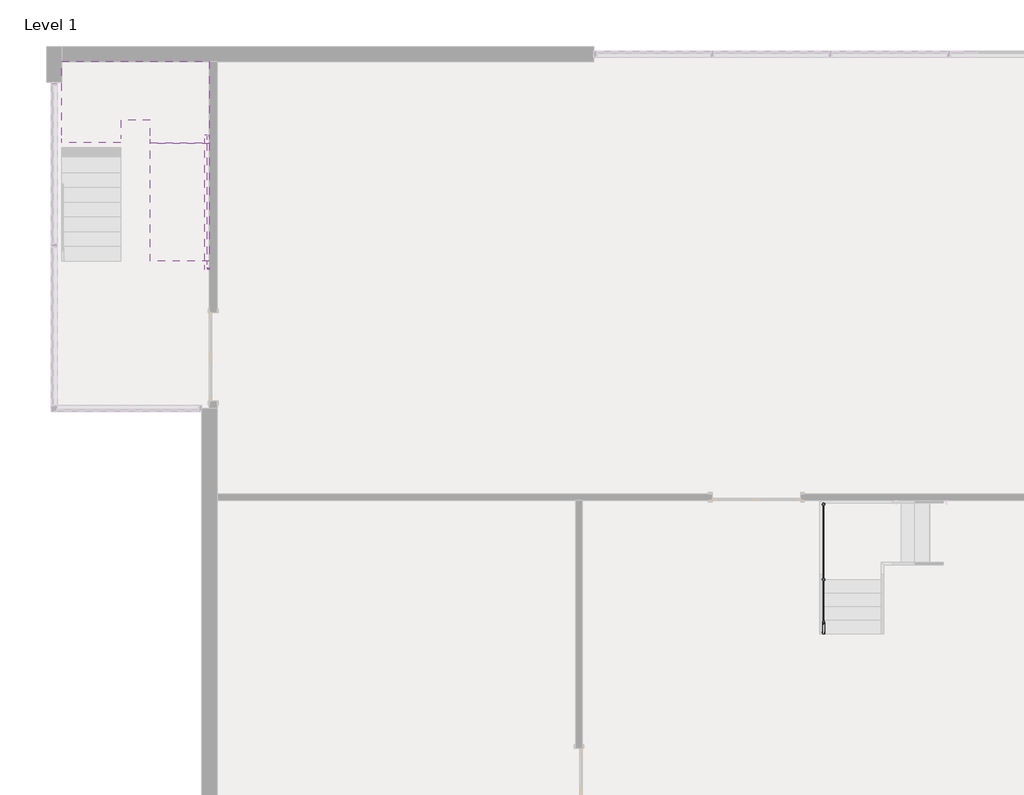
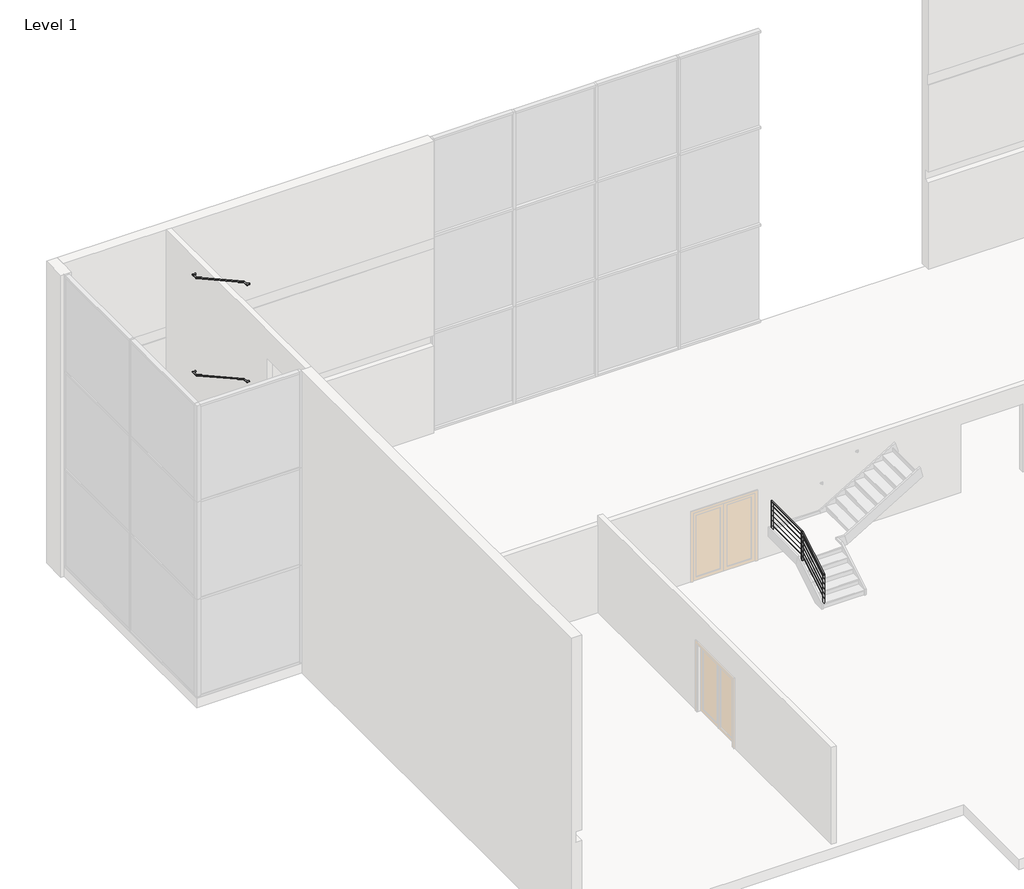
# One storey, part 5 of 7: 3 railings, 1 slab, 1 stair flight.
"""IFC4 building model written with IfcOpenShell, lengths in millimetres."""

from ifc_helpers import new_model, si_unit, point, frame, frame_2d, origin, place, context, project, spatial, circle_curve, ellipse_curve, trimmed, segment, composite_curve, outline, extrude, faceted_brep, element, save
from ifc_brep_helpers import plane_surface, cylinder_surface, advanced_brep

model = new_model("IFC4")

# Units and contexts
model_context = context("Model", 3, world=origin())
ifc_project = project(units=[si_unit("LENGTHUNIT", "METRE", prefix="MILLI")], contexts=[model_context])

# Site, building, storey
site = spatial("IfcSite", under=ifc_project)
building = spatial("IfcBuilding", under=site)
storey = spatial("IfcBuildingStorey", under=building, Name="Level 1", Elevation=0.0)

# Railings
placement = place(None, origin())
element("IfcRailing", 1, ObjectType="Handrail -Wire", at=placement, inside=storey, context=model_context, shape_type="SolidModel", body=[
    advanced_brep(
    [(-5647.967382, 3796.5483604, 1061.4577857), (-5686.067382, 3796.5483604, 1061.4577857), (-5647.967382, 4919.470514, 1742.0166667), (-5686.067382, 4919.470514, 1742.0166667), (-5647.967382, 6488.9483604, 1742.0166667), (-5686.067382, 6488.9483604, 1742.0166667)],
    [
        (0, 1, ellipse_curve(frame((-5667.017382, 3796.5483604, 1061.4577857), z_axis=(0.0, -1.0, 0.0), x_axis=(0.0, 0.0, -1.0)), 22.2755476, 19.05)),
        (1, 0, ellipse_curve(frame((-5667.017382, 3796.5483604, 1061.4577857), z_axis=(0.0, -1.0, 0.0), x_axis=(0.0, 0.0, -1.0)), 22.2755476, 19.05)),
        (0, 2),
        (2, 3, ellipse_curve(frame((-5667.017382, 4919.470514, 1742.0166667), z_axis=(0.0, -0.9631193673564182, -0.2690744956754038), x_axis=(0.0, 0.26907449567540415, -0.9631193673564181)), 19.7794797, 19.05)),
        (3, 1),
        (3, 2, ellipse_curve(frame((-5667.017382, 4919.470514, 1742.0166667), z_axis=(0.0, -0.9631193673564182, -0.2690744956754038), x_axis=(0.0, 0.26907449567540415, -0.9631193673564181)), 19.7794797, 19.05)),
        (4, 5, circle_curve(frame((-5667.017382, 6488.9483604, 1742.0166667), z_axis=(0.0, 1.0, 0.0), x_axis=(-1.0, 0.0, 0.0)), 19.05)),
        (5, 4, circle_curve(frame((-5667.017382, 6488.9483604, 1742.0166667), z_axis=(0.0, 1.0, 0.0), x_axis=(-1.0, 0.0, 0.0)), 19.05)),
        (2, 4),
        (5, 3),
    ],
    [
        plane_surface(frame((-5667.017382, 3796.5483604, 1083.7333333), z_axis=(0.0, -1.0, 0.0), x_axis=(0.0, 0.0, 1.0))),
        cylinder_surface(frame((-5667.017382, 3806.4220081, 1067.4418146), z_axis=(0.0, -0.8551978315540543, -0.5183017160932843), x_axis=(-1.0, 0.0, 0.0)), 19.05),
        plane_surface(frame((-5667.017382, 6488.9483604, 1761.0666667), z_axis=(0.0, 1.0, 0.0), x_axis=(0.0, 0.0, 1.0))),
        cylinder_surface(frame((-5667.017382, 4914.1483604, 1742.0166667), z_axis=(0.0, -1.0, 0.0), x_axis=(-1.0, 0.0, 0.0)), 19.05),
    ],
    [
        (0, [[1, 2]]),
        (1, [[-1, 3, 4, 5]]),
        (1, [[-2, -5, 6, -3]]),
        (2, [[7, 8]]),
        (3, [[-4, 9, -8, 10]]),
        (3, [[-6, -10, -7, -9]]),
    ],
),
    advanced_brep(
    [(-5663.842382, 3796.5483604, 927.6207421), (-5670.192382, 3796.5483604, 927.6207421), (-5663.842382, 4914.1483604, 1604.9540754), (-5670.192382, 4914.1483604, 1604.9540754)],
    [
        (0, 1, ellipse_curve(frame((-5667.017382, 3796.5483604, 927.6207421), z_axis=(0.0, -1.0, 0.0), x_axis=(0.0, 0.0, -1.0)), 3.7125913, 3.175)),
        (1, 0, ellipse_curve(frame((-5667.017382, 3796.5483604, 927.6207421), z_axis=(0.0, -1.0, 0.0), x_axis=(0.0, 0.0, -1.0)), 3.7125913, 3.175)),
        (2, 3, ellipse_curve(frame((-5667.017382, 4914.1483604, 1604.9540754), z_axis=(0.0, 1.0, 0.0), x_axis=(0.0, 0.0, -1.0)), 3.7125913, 3.175)),
        (3, 2, ellipse_curve(frame((-5667.017382, 4914.1483604, 1604.9540754), z_axis=(0.0, 1.0, 0.0), x_axis=(0.0, 0.0, -1.0)), 3.7125913, 3.175)),
        (0, 2),
        (3, 1),
    ],
    [
        plane_surface(frame((-5667.017382, 3796.5483604, 931.3333333), z_axis=(0.0, -1.0, 0.0), x_axis=(0.0, 0.0, 1.0))),
        plane_surface(frame((-5667.017382, 4914.1483604, 1608.6666667), z_axis=(0.0, 1.0, 0.0), x_axis=(0.0, 0.0, 1.0))),
        cylinder_surface(frame((-5667.017382, 3798.1939684, 928.6180802), z_axis=(0.0, -0.8551978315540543, -0.5183017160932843), x_axis=(-1.0, 0.0, 0.0)), 3.175),
    ],
    [
        (0, [[1, 2]]),
        (1, [[3, 4]]),
        (2, [[-1, 5, -4, 6]]),
        (2, [[-2, -6, -3, -5]]),
    ],
),
    advanced_brep(
    [(-5663.842382, 4914.1483604, 1605.4916667), (-5670.192382, 4914.1483604, 1605.4916667), (-5663.842382, 6488.9483604, 1605.4916667), (-5670.192382, 6488.9483604, 1605.4916667)],
    [
        (0, 1, circle_curve(frame((-5667.017382, 4914.1483604, 1605.4916667), z_axis=(0.0, -1.0, 0.0), x_axis=(-1.0, 0.0, 0.0)), 3.175)),
        (1, 0, circle_curve(frame((-5667.017382, 4914.1483604, 1605.4916667), z_axis=(0.0, -1.0, 0.0), x_axis=(-1.0, 0.0, 0.0)), 3.175)),
        (2, 3, circle_curve(frame((-5667.017382, 6488.9483604, 1605.4916667), z_axis=(0.0, 1.0, 0.0), x_axis=(-1.0, 0.0, 0.0)), 3.175)),
        (3, 2, circle_curve(frame((-5667.017382, 6488.9483604, 1605.4916667), z_axis=(0.0, 1.0, 0.0), x_axis=(-1.0, 0.0, 0.0)), 3.175)),
        (0, 2),
        (3, 1),
    ],
    [
        plane_surface(frame((-5667.017382, 4914.1483604, 1608.6666667), z_axis=(0.0, -1.0, 0.0), x_axis=(0.0, 0.0, 1.0))),
        plane_surface(frame((-5667.017382, 6488.9483604, 1608.6666667), z_axis=(0.0, 1.0, 0.0), x_axis=(0.0, 0.0, 1.0))),
        cylinder_surface(frame((-5667.017382, 4914.1483604, 1605.4916667), z_axis=(0.0, -1.0, 0.0), x_axis=(-1.0, 0.0, 0.0)), 3.175),
    ],
    [
        (0, [[1, 2]]),
        (1, [[3, 4]]),
        (2, [[-1, 5, -4, 6]]),
        (2, [[-2, -6, -3, -5]]),
    ],
),
    advanced_brep(
    [(-5663.842382, 3796.5483604, 775.2207421), (-5670.192382, 3796.5483604, 775.2207421), (-5663.842382, 4914.1483604, 1452.5540754), (-5670.192382, 4914.1483604, 1452.5540754)],
    [
        (0, 1, ellipse_curve(frame((-5667.017382, 3796.5483604, 775.2207421), z_axis=(0.0, -1.0, 0.0), x_axis=(0.0, 0.0, -1.0)), 3.7125913, 3.175)),
        (1, 0, ellipse_curve(frame((-5667.017382, 3796.5483604, 775.2207421), z_axis=(0.0, -1.0, 0.0), x_axis=(0.0, 0.0, -1.0)), 3.7125913, 3.175)),
        (2, 3, ellipse_curve(frame((-5667.017382, 4914.1483604, 1452.5540754), z_axis=(0.0, 1.0, 0.0), x_axis=(0.0, 0.0, -1.0)), 3.7125913, 3.175)),
        (3, 2, ellipse_curve(frame((-5667.017382, 4914.1483604, 1452.5540754), z_axis=(0.0, 1.0, 0.0), x_axis=(0.0, 0.0, -1.0)), 3.7125913, 3.175)),
        (0, 2),
        (3, 1),
    ],
    [
        plane_surface(frame((-5667.017382, 3796.5483604, 778.9333333), z_axis=(0.0, -1.0, 0.0), x_axis=(0.0, 0.0, 1.0))),
        plane_surface(frame((-5667.017382, 4914.1483604, 1456.2666667), z_axis=(0.0, 1.0, 0.0), x_axis=(0.0, 0.0, 1.0))),
        cylinder_surface(frame((-5667.017382, 3798.1939684, 776.2180802), z_axis=(0.0, -0.8551978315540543, -0.5183017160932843), x_axis=(-1.0, 0.0, 0.0)), 3.175),
    ],
    [
        (0, [[1, 2]]),
        (1, [[3, 4]]),
        (2, [[-1, 5, -4, 6]]),
        (2, [[-2, -6, -3, -5]]),
    ],
),
    advanced_brep(
    [(-5663.842382, 4914.1483604, 1453.0916667), (-5670.192382, 4914.1483604, 1453.0916667), (-5663.842382, 6488.9483604, 1453.0916667), (-5670.192382, 6488.9483604, 1453.0916667)],
    [
        (0, 1, circle_curve(frame((-5667.017382, 4914.1483604, 1453.0916667), z_axis=(0.0, -1.0, 0.0), x_axis=(-1.0, 0.0, 0.0)), 3.175)),
        (1, 0, circle_curve(frame((-5667.017382, 4914.1483604, 1453.0916667), z_axis=(0.0, -1.0, 0.0), x_axis=(-1.0, 0.0, 0.0)), 3.175)),
        (2, 3, circle_curve(frame((-5667.017382, 6488.9483604, 1453.0916667), z_axis=(0.0, 1.0, 0.0), x_axis=(-1.0, 0.0, 0.0)), 3.175)),
        (3, 2, circle_curve(frame((-5667.017382, 6488.9483604, 1453.0916667), z_axis=(0.0, 1.0, 0.0), x_axis=(-1.0, 0.0, 0.0)), 3.175)),
        (0, 2),
        (3, 1),
    ],
    [
        plane_surface(frame((-5667.017382, 4914.1483604, 1456.2666667), z_axis=(0.0, -1.0, 0.0), x_axis=(0.0, 0.0, 1.0))),
        plane_surface(frame((-5667.017382, 6488.9483604, 1456.2666667), z_axis=(0.0, 1.0, 0.0), x_axis=(0.0, 0.0, 1.0))),
        cylinder_surface(frame((-5667.017382, 4914.1483604, 1453.0916667), z_axis=(0.0, -1.0, 0.0), x_axis=(-1.0, 0.0, 0.0)), 3.175),
    ],
    [
        (0, [[1, 2]]),
        (1, [[3, 4]]),
        (2, [[-1, 5, -4, 6]]),
        (2, [[-2, -6, -3, -5]]),
    ],
),
    advanced_brep(
    [(-5663.842382, 3796.5483604, 622.8207421), (-5670.192382, 3796.5483604, 622.8207421), (-5663.842382, 4914.1483604, 1300.1540754), (-5670.192382, 4914.1483604, 1300.1540754)],
    [
        (0, 1, ellipse_curve(frame((-5667.017382, 3796.5483604, 622.8207421), z_axis=(0.0, -1.0, 0.0), x_axis=(0.0, 0.0, -1.0)), 3.7125913, 3.175)),
        (1, 0, ellipse_curve(frame((-5667.017382, 3796.5483604, 622.8207421), z_axis=(0.0, -1.0, 0.0), x_axis=(0.0, 0.0, -1.0)), 3.7125913, 3.175)),
        (2, 3, ellipse_curve(frame((-5667.017382, 4914.1483604, 1300.1540754), z_axis=(0.0, 1.0, 0.0), x_axis=(0.0, 0.0, -1.0)), 3.7125913, 3.175)),
        (3, 2, ellipse_curve(frame((-5667.017382, 4914.1483604, 1300.1540754), z_axis=(0.0, 1.0, 0.0), x_axis=(0.0, 0.0, -1.0)), 3.7125913, 3.175)),
        (0, 2),
        (3, 1),
    ],
    [
        plane_surface(frame((-5667.017382, 3796.5483604, 626.5333333), z_axis=(0.0, -1.0, 0.0), x_axis=(0.0, 0.0, 1.0))),
        plane_surface(frame((-5667.017382, 4914.1483604, 1303.8666667), z_axis=(0.0, 1.0, 0.0), x_axis=(0.0, 0.0, 1.0))),
        cylinder_surface(frame((-5667.017382, 3798.1939684, 623.8180802), z_axis=(0.0, -0.8551978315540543, -0.5183017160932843), x_axis=(-1.0, 0.0, 0.0)), 3.175),
    ],
    [
        (0, [[1, 2]]),
        (1, [[3, 4]]),
        (2, [[-1, 5, -4, 6]]),
        (2, [[-2, -6, -3, -5]]),
    ],
),
    advanced_brep(
    [(-5663.842382, 4914.1483604, 1300.6916667), (-5670.192382, 4914.1483604, 1300.6916667), (-5663.842382, 6488.9483604, 1300.6916667), (-5670.192382, 6488.9483604, 1300.6916667)],
    [
        (0, 1, circle_curve(frame((-5667.017382, 4914.1483604, 1300.6916667), z_axis=(0.0, -1.0, 0.0), x_axis=(-1.0, 0.0, 0.0)), 3.175)),
        (1, 0, circle_curve(frame((-5667.017382, 4914.1483604, 1300.6916667), z_axis=(0.0, -1.0, 0.0), x_axis=(-1.0, 0.0, 0.0)), 3.175)),
        (2, 3, circle_curve(frame((-5667.017382, 6488.9483604, 1300.6916667), z_axis=(0.0, 1.0, 0.0), x_axis=(-1.0, 0.0, 0.0)), 3.175)),
        (3, 2, circle_curve(frame((-5667.017382, 6488.9483604, 1300.6916667), z_axis=(0.0, 1.0, 0.0), x_axis=(-1.0, 0.0, 0.0)), 3.175)),
        (0, 2),
        (3, 1),
    ],
    [
        plane_surface(frame((-5667.017382, 4914.1483604, 1303.8666667), z_axis=(0.0, -1.0, 0.0), x_axis=(0.0, 0.0, 1.0))),
        plane_surface(frame((-5667.017382, 6488.9483604, 1303.8666667), z_axis=(0.0, 1.0, 0.0), x_axis=(0.0, 0.0, 1.0))),
        cylinder_surface(frame((-5667.017382, 4914.1483604, 1300.6916667), z_axis=(0.0, -1.0, 0.0), x_axis=(-1.0, 0.0, 0.0)), 3.175),
    ],
    [
        (0, [[1, 2]]),
        (1, [[3, 4]]),
        (2, [[-1, 5, -4, 6]]),
        (2, [[-2, -6, -3, -5]]),
    ],
),
    advanced_brep(
    [(-5663.842382, 3796.5483604, 470.4207421), (-5670.192382, 3796.5483604, 470.4207421), (-5663.842382, 4914.1483604, 1147.7540754), (-5670.192382, 4914.1483604, 1147.7540754)],
    [
        (0, 1, ellipse_curve(frame((-5667.017382, 3796.5483604, 470.4207421), z_axis=(0.0, -1.0, 0.0), x_axis=(0.0, 0.0, -1.0)), 3.7125913, 3.175)),
        (1, 0, ellipse_curve(frame((-5667.017382, 3796.5483604, 470.4207421), z_axis=(0.0, -1.0, 0.0), x_axis=(0.0, 0.0, -1.0)), 3.7125913, 3.175)),
        (2, 3, ellipse_curve(frame((-5667.017382, 4914.1483604, 1147.7540754), z_axis=(0.0, 1.0, 0.0), x_axis=(0.0, 0.0, -1.0)), 3.7125913, 3.175)),
        (3, 2, ellipse_curve(frame((-5667.017382, 4914.1483604, 1147.7540754), z_axis=(0.0, 1.0, 0.0), x_axis=(0.0, 0.0, -1.0)), 3.7125913, 3.175)),
        (0, 2),
        (3, 1),
    ],
    [
        plane_surface(frame((-5667.017382, 3796.5483604, 474.1333333), z_axis=(0.0, -1.0, 0.0), x_axis=(0.0, 0.0, 1.0))),
        plane_surface(frame((-5667.017382, 4914.1483604, 1151.4666667), z_axis=(0.0, 1.0, 0.0), x_axis=(0.0, 0.0, 1.0))),
        cylinder_surface(frame((-5667.017382, 3798.1939684, 471.4180802), z_axis=(0.0, -0.8551978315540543, -0.5183017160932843), x_axis=(-1.0, 0.0, 0.0)), 3.175),
    ],
    [
        (0, [[1, 2]]),
        (1, [[3, 4]]),
        (2, [[-1, 5, -4, 6]]),
        (2, [[-2, -6, -3, -5]]),
    ],
),
    advanced_brep(
    [(-5663.842382, 4914.1483604, 1148.2916667), (-5670.192382, 4914.1483604, 1148.2916667), (-5663.842382, 6488.9483604, 1148.2916667), (-5670.192382, 6488.9483604, 1148.2916667)],
    [
        (0, 1, circle_curve(frame((-5667.017382, 4914.1483604, 1148.2916667), z_axis=(0.0, -1.0, 0.0), x_axis=(-1.0, 0.0, 0.0)), 3.175)),
        (1, 0, circle_curve(frame((-5667.017382, 4914.1483604, 1148.2916667), z_axis=(0.0, -1.0, 0.0), x_axis=(-1.0, 0.0, 0.0)), 3.175)),
        (2, 3, circle_curve(frame((-5667.017382, 6488.9483604, 1148.2916667), z_axis=(0.0, 1.0, 0.0), x_axis=(-1.0, 0.0, 0.0)), 3.175)),
        (3, 2, circle_curve(frame((-5667.017382, 6488.9483604, 1148.2916667), z_axis=(0.0, 1.0, 0.0), x_axis=(-1.0, 0.0, 0.0)), 3.175)),
        (0, 2),
        (3, 1),
    ],
    [
        plane_surface(frame((-5667.017382, 4914.1483604, 1151.4666667), z_axis=(0.0, -1.0, 0.0), x_axis=(0.0, 0.0, 1.0))),
        plane_surface(frame((-5667.017382, 6488.9483604, 1151.4666667), z_axis=(0.0, 1.0, 0.0), x_axis=(0.0, 0.0, 1.0))),
        cylinder_surface(frame((-5667.017382, 4914.1483604, 1148.2916667), z_axis=(0.0, -1.0, 0.0), x_axis=(-1.0, 0.0, 0.0)), 3.175),
    ],
    [
        (0, [[1, 2]]),
        (1, [[3, 4]]),
        (2, [[-1, 5, -4, 6]]),
        (2, [[-2, -6, -3, -5]]),
    ],
),
    advanced_brep(
    [(-5663.842382, 3796.5483604, 318.0207421), (-5670.192382, 3796.5483604, 318.0207421), (-5663.842382, 4914.1483604, 995.3540754), (-5670.192382, 4914.1483604, 995.3540754)],
    [
        (0, 1, ellipse_curve(frame((-5667.017382, 3796.5483604, 318.0207421), z_axis=(0.0, -1.0, 0.0), x_axis=(0.0, 0.0, -1.0)), 3.7125913, 3.175)),
        (1, 0, ellipse_curve(frame((-5667.017382, 3796.5483604, 318.0207421), z_axis=(0.0, -1.0, 0.0), x_axis=(0.0, 0.0, -1.0)), 3.7125913, 3.175)),
        (2, 3, ellipse_curve(frame((-5667.017382, 4914.1483604, 995.3540754), z_axis=(0.0, 1.0, 0.0), x_axis=(0.0, 0.0, -1.0)), 3.7125913, 3.175)),
        (3, 2, ellipse_curve(frame((-5667.017382, 4914.1483604, 995.3540754), z_axis=(0.0, 1.0, 0.0), x_axis=(0.0, 0.0, -1.0)), 3.7125913, 3.175)),
        (0, 2),
        (3, 1),
    ],
    [
        plane_surface(frame((-5667.017382, 3796.5483604, 321.7333333), z_axis=(0.0, -1.0, 0.0), x_axis=(0.0, 0.0, 1.0))),
        plane_surface(frame((-5667.017382, 4914.1483604, 999.0666667), z_axis=(0.0, 1.0, 0.0), x_axis=(0.0, 0.0, 1.0))),
        cylinder_surface(frame((-5667.017382, 3798.1939684, 319.0180802), z_axis=(0.0, -0.8551978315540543, -0.5183017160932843), x_axis=(-1.0, 0.0, 0.0)), 3.175),
    ],
    [
        (0, [[1, 2]]),
        (1, [[3, 4]]),
        (2, [[-1, 5, -4, 6]]),
        (2, [[-2, -6, -3, -5]]),
    ],
),
    advanced_brep(
    [(-5663.842382, 4914.1483604, 995.8916667), (-5670.192382, 4914.1483604, 995.8916667), (-5663.842382, 6488.9483604, 995.8916667), (-5670.192382, 6488.9483604, 995.8916667)],
    [
        (0, 1, circle_curve(frame((-5667.017382, 4914.1483604, 995.8916667), z_axis=(0.0, -1.0, 0.0), x_axis=(-1.0, 0.0, 0.0)), 3.175)),
        (1, 0, circle_curve(frame((-5667.017382, 4914.1483604, 995.8916667), z_axis=(0.0, -1.0, 0.0), x_axis=(-1.0, 0.0, 0.0)), 3.175)),
        (2, 3, circle_curve(frame((-5667.017382, 6488.9483604, 995.8916667), z_axis=(0.0, 1.0, 0.0), x_axis=(-1.0, 0.0, 0.0)), 3.175)),
        (3, 2, circle_curve(frame((-5667.017382, 6488.9483604, 995.8916667), z_axis=(0.0, 1.0, 0.0), x_axis=(-1.0, 0.0, 0.0)), 3.175)),
        (0, 2),
        (3, 1),
    ],
    [
        plane_surface(frame((-5667.017382, 4914.1483604, 999.0666667), z_axis=(0.0, -1.0, 0.0), x_axis=(0.0, 0.0, 1.0))),
        plane_surface(frame((-5667.017382, 6488.9483604, 999.0666667), z_axis=(0.0, 1.0, 0.0), x_axis=(0.0, 0.0, 1.0))),
        cylinder_surface(frame((-5667.017382, 4914.1483604, 995.8916667), z_axis=(0.0, -1.0, 0.0), x_axis=(-1.0, 0.0, 0.0)), 3.175),
    ],
    [
        (0, [[1, 2]]),
        (1, [[3, 4]]),
        (2, [[-1, 5, -4, 6]]),
        (2, [[-2, -6, -3, -5]]),
    ],
),
    advanced_brep(
    [(-5692.417382, 4914.1483604, 1716.5155715), (-5641.617382, 4914.1483604, 1716.5155715), (-5641.617382, 4914.1483604, 846.6666667), (-5692.417382, 4914.1483604, 846.6666667)],
    [
        (0, 1, ellipse_curve(frame((-5667.017382, 4914.1483604, 1716.5155715), z_axis=(0.0, 0.5183017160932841, -0.8551978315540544), x_axis=(0.0, 0.8551978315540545, 0.518301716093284)), 29.7007301, 25.4)),
        (1, 2),
        (2, 3, circle_curve(frame((-5667.017382, 4914.1483604, 846.6666667), z_axis=(0.0, 0.0, 1.0), x_axis=(1.0, 0.0, 0.0)), 25.4)),
        (3, 0),
        (3, 2, circle_curve(frame((-5667.017382, 4914.1483604, 846.6666667), z_axis=(0.0, 0.0, 1.0), x_axis=(1.0, 0.0, 0.0)), 25.4)),
        (1, 0, ellipse_curve(frame((-5667.017382, 4914.1483604, 1716.5155715), z_axis=(0.0, 0.5183017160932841, -0.8551978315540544), x_axis=(0.0, 0.8551978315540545, 0.518301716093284)), 29.7007301, 25.4)),
    ],
    [
        cylinder_surface(frame((-5667.017382, 4914.1483604, 618.0666667), z_axis=(0.0, 0.0, 1.0), x_axis=(1.0, 0.0, 0.0)), 25.4),
        plane_surface(frame((-5616.217382, 4964.9483604, 1747.3034503), z_axis=(0.0, -0.5183017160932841, 0.8551978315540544), x_axis=(-1.0, 0.0, 0.0))),
        plane_surface(frame((-5616.217382, 4863.3483604, 846.6666667), z_axis=(0.0, 0.0, -1.0), x_axis=(-1.0, 0.0, 0.0))),
    ],
    [
        (0, [[1, 2, 3, 4]]),
        (0, [[5, -2, 6, -4]]),
        (1, [[-6, -1]]),
        (2, [[-5, -3]]),
    ],
),
    extrude(outline(composite_curve([segment(trimmed(circle_curve(frame_2d((-5667.017382, 6463.5483604)), 25.4), [point((-5641.617382, 6463.5483604))], [point((-5692.417382, 6463.5483604))], False, "CARTESIAN"), True, "CONTINUOUS"), segment(trimmed(circle_curve(frame_2d((-5667.017382, 6463.5483604)), 25.4), [point((-5692.417382, 6463.5483604))], [point((-5641.617382, 6463.5483604))], False, "CARTESIAN"), True, "CONTINUOUS")], self_intersect=False)), frame((0.0, 0.0, 846.6666667), z_axis=(0.0, 0.0, 1.0), x_axis=(1.0, 0.0, 0.0)), (0.0, 0.0, 1.0), 876.3),
    advanced_brep(
    [(-5692.417382, 3821.9483604, 1054.5761775), (-5641.617382, 3821.9483604, 1054.5761775), (-5641.617382, 3821.9483604, 169.3333333), (-5692.417382, 3821.9483604, 169.3333333)],
    [
        (0, 1, ellipse_curve(frame((-5667.017382, 3821.9483604, 1054.5761775), z_axis=(0.0, 0.5183017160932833, -0.8551978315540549), x_axis=(0.0, 0.855197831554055, 0.518301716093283)), 29.7007301, 25.4)),
        (1, 2),
        (2, 3, circle_curve(frame((-5667.017382, 3821.9483604, 169.3333333), z_axis=(0.0, 0.0, 1.0), x_axis=(1.0, 0.0, 0.0)), 25.4)),
        (3, 0),
        (3, 2, circle_curve(frame((-5667.017382, 3821.9483604, 169.3333333), z_axis=(0.0, 0.0, 1.0), x_axis=(1.0, 0.0, 0.0)), 25.4)),
        (1, 0, ellipse_curve(frame((-5667.017382, 3821.9483604, 1054.5761775), z_axis=(0.0, 0.5183017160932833, -0.8551978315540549), x_axis=(0.0, 0.855197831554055, 0.518301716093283)), 29.7007301, 25.4)),
    ],
    [
        cylinder_surface(frame((-5667.017382, 3821.9483604, -59.2666667), z_axis=(0.0, 0.0, 1.0), x_axis=(1.0, 0.0, 0.0)), 25.4),
        plane_surface(frame((-5616.217382, 3872.7483604, 1085.3640563), z_axis=(0.0, -0.5183017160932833, 0.8551978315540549), x_axis=(-1.0, 0.0, 0.0))),
        plane_surface(frame((-5616.217382, 3771.1483604, 169.3333333), z_axis=(0.0, 0.0, -1.0), x_axis=(-1.0, 0.0, 0.0))),
    ],
    [
        (0, [[1, 2, 3, 4]]),
        (0, [[5, -2, 6, -4]]),
        (1, [[-6, -1]]),
        (2, [[-5, -3]]),
    ],
),
])
element("IfcRailing", 2, ObjectType="Wall Mount Handrail", at=placement, inside=storey, context=model_context, shape_type="AdvancedBrep", body=[
    advanced_brep(
    [(-18328.917382, 14093.0733604, 5636.6833336), (-18328.917382, 14054.9733604, 5636.6833336), (-18424.167382, 14093.0733604, 5636.6833336), (-18386.067382, 14054.9733604, 5636.6833336), (-18424.167382, 13916.6870096, 5636.6833336), (-18386.067382, 13916.6870096, 5636.6833336), (-18424.167382, 11478.2870096, 6991.3500003), (-18386.067382, 11478.2870096, 6991.3500003), (-18424.167382, 11311.7733604, 6991.3500003), (-18386.067382, 11349.8733604, 6991.3500003), (-18328.917382, 11311.7733604, 6991.3500003), (-18328.917382, 11349.8733604, 6991.3500003)],
    [
        (0, 1, circle_curve(frame((-18328.917382, 14074.0233604, 5636.6833336), z_axis=(1.0, 0.0, 0.0), x_axis=(0.0, -1.0, 0.0)), 19.05)),
        (1, 0, circle_curve(frame((-18328.917382, 14074.0233604, 5636.6833336), z_axis=(1.0, 0.0, 0.0), x_axis=(0.0, -1.0, 0.0)), 19.05)),
        (0, 2),
        (2, 3, ellipse_curve(frame((-18405.117382, 14074.0233604, 5636.6833336), z_axis=(0.7071067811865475, 0.7071067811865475, 0.0), x_axis=(0.7071067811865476, -0.7071067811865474, 0.0)), 26.9407684, 19.05)),
        (3, 1),
        (3, 2, ellipse_curve(frame((-18405.117382, 14074.0233604, 5636.6833336), z_axis=(0.7071067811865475, 0.7071067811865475, 0.0), x_axis=(0.7071067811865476, -0.7071067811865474, 0.0)), 26.9407684, 19.05)),
        (2, 4),
        (4, 5, ellipse_curve(frame((-18405.117382, 13916.6870096, 5636.6833336), z_axis=(0.0, 0.9680282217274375, -0.2508413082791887), x_axis=(0.0, 0.25084130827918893, 0.9680282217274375)), 19.6791783, 19.05)),
        (5, 3),
        (5, 4, ellipse_curve(frame((-18405.117382, 13916.6870096, 5636.6833336), z_axis=(0.0, 0.9680282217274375, -0.2508413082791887), x_axis=(0.0, 0.25084130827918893, 0.9680282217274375)), 19.6791783, 19.05)),
        (4, 6),
        (6, 7, ellipse_curve(frame((-18405.117382, 11478.2870096, 6991.3500003), z_axis=(0.0, 0.9680282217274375, -0.25084130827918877), x_axis=(0.0, -0.25084130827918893, -0.9680282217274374)), 19.6791783, 19.05)),
        (7, 5),
        (7, 6, ellipse_curve(frame((-18405.117382, 11478.2870096, 6991.3500003), z_axis=(0.0, 0.9680282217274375, -0.25084130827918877), x_axis=(0.0, -0.25084130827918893, -0.9680282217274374)), 19.6791783, 19.05)),
        (6, 8),
        (8, 9, ellipse_curve(frame((-18405.117382, 11330.8233604, 6991.3500003), z_axis=(-0.7071067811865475, 0.7071067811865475, 0.0), x_axis=(0.7071067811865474, 0.7071067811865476, 0.0)), 26.9407684, 19.05)),
        (9, 7),
        (9, 8, ellipse_curve(frame((-18405.117382, 11330.8233604, 6991.3500003), z_axis=(-0.7071067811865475, 0.7071067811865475, 0.0), x_axis=(0.7071067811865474, 0.7071067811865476, 0.0)), 26.9407684, 19.05)),
        (10, 11, circle_curve(frame((-18328.917382, 11330.8233604, 6991.3500003), z_axis=(1.0, 0.0, 0.0), x_axis=(0.0, 1.0, 0.0)), 19.05)),
        (11, 10, circle_curve(frame((-18328.917382, 11330.8233604, 6991.3500003), z_axis=(1.0, 0.0, 0.0), x_axis=(0.0, 1.0, 0.0)), 19.05)),
        (8, 10),
        (11, 9),
    ],
    [
        plane_surface(frame((-18328.917382, 14074.0233604, 5655.7333336), z_axis=(1.0, 0.0, 0.0), x_axis=(0.0, -1.0, 0.0))),
        cylinder_surface(frame((-18328.917382, 14074.0233604, 5636.6833336), z_axis=(1.0, 0.0, 0.0), x_axis=(0.0, -1.0, 0.0)), 19.05),
        cylinder_surface(frame((-18405.117382, 14074.0233604, 5636.6833336), z_axis=(0.0, 1.0, 0.0), x_axis=(1.0, 0.0, 0.0)), 19.05),
        cylinder_surface(frame((-18405.117382, 13912.3718626, 5639.0806375), z_axis=(0.0, 0.87415727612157, -0.485642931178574), x_axis=(1.0, 0.0, 0.0)), 19.05),
        cylinder_surface(frame((-18405.117382, 11483.2233604, 6991.3500003), z_axis=(0.0, 1.0, 0.0), x_axis=(1.0, 0.0, 0.0)), 19.05),
        plane_surface(frame((-18328.917382, 11330.8233604, 7010.4000003), z_axis=(1.0, 0.0, 0.0), x_axis=(0.0, 1.0, 0.0))),
        cylinder_surface(frame((-18405.117382, 11330.8233604, 6991.3500003), z_axis=(-1.0, 0.0, 0.0), x_axis=(0.0, 1.0, 0.0)), 19.05),
    ],
    [
        (0, [[1, 2]]),
        (1, [[-1, 3, 4, 5]]),
        (1, [[-2, -5, 6, -3]]),
        (2, [[-4, 7, 8, 9]]),
        (2, [[-6, -9, 10, -7]]),
        (3, [[-8, 11, 12, 13]]),
        (3, [[-10, -13, 14, -11]]),
        (4, [[-12, 15, 16, 17]]),
        (4, [[-14, -17, 18, -15]]),
        (5, [[19, 20]]),
        (6, [[-16, 21, -20, 22]]),
        (6, [[-18, -22, -19, -21]]),
    ],
),
    advanced_brep(
    [(-18328.917382, 14093.0733604, 2588.6833333), (-18328.917382, 14054.9733604, 2588.6833333), (-18424.167382, 14093.0733604, 2588.6833333), (-18386.067382, 14054.9733604, 2588.6833333), (-18424.167382, 13916.6870096, 2588.6833333), (-18386.067382, 13916.6870096, 2588.6833333), (-18424.167382, 11478.2870096, 3943.35), (-18386.067382, 11478.2870096, 3943.35), (-18424.167382, 11311.7733604, 3943.35), (-18386.067382, 11349.8733604, 3943.35), (-18328.917382, 11311.7733604, 3943.35), (-18328.917382, 11349.8733604, 3943.35)],
    [
        (0, 1, circle_curve(frame((-18328.917382, 14074.0233604, 2588.6833333), z_axis=(1.0, 0.0, 0.0), x_axis=(0.0, -1.0, 0.0)), 19.05)),
        (1, 0, circle_curve(frame((-18328.917382, 14074.0233604, 2588.6833333), z_axis=(1.0, 0.0, 0.0), x_axis=(0.0, -1.0, 0.0)), 19.05)),
        (0, 2),
        (2, 3, ellipse_curve(frame((-18405.117382, 14074.0233604, 2588.6833333), z_axis=(0.7071067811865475, 0.7071067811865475, 0.0), x_axis=(0.7071067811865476, -0.7071067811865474, 0.0)), 26.9407684, 19.05)),
        (3, 1),
        (3, 2, ellipse_curve(frame((-18405.117382, 14074.0233604, 2588.6833333), z_axis=(0.7071067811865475, 0.7071067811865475, 0.0), x_axis=(0.7071067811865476, -0.7071067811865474, 0.0)), 26.9407684, 19.05)),
        (2, 4),
        (4, 5, ellipse_curve(frame((-18405.117382, 13916.6870096, 2588.6833333), z_axis=(0.0, 0.9680282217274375, -0.2508413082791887), x_axis=(0.0, 0.25084130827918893, 0.9680282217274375)), 19.6791783, 19.05)),
        (5, 3),
        (5, 4, ellipse_curve(frame((-18405.117382, 13916.6870096, 2588.6833333), z_axis=(0.0, 0.9680282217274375, -0.2508413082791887), x_axis=(0.0, 0.25084130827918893, 0.9680282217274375)), 19.6791783, 19.05)),
        (4, 6),
        (6, 7, ellipse_curve(frame((-18405.117382, 11478.2870096, 3943.35), z_axis=(0.0, 0.9680282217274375, -0.25084130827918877), x_axis=(0.0, -0.25084130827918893, -0.9680282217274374)), 19.6791783, 19.05)),
        (7, 5),
        (7, 6, ellipse_curve(frame((-18405.117382, 11478.2870096, 3943.35), z_axis=(0.0, 0.9680282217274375, -0.25084130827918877), x_axis=(0.0, -0.25084130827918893, -0.9680282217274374)), 19.6791783, 19.05)),
        (6, 8),
        (8, 9, ellipse_curve(frame((-18405.117382, 11330.8233604, 3943.35), z_axis=(-0.7071067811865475, 0.7071067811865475, 0.0), x_axis=(0.7071067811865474, 0.7071067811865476, 0.0)), 26.9407684, 19.05)),
        (9, 7),
        (9, 8, ellipse_curve(frame((-18405.117382, 11330.8233604, 3943.35), z_axis=(-0.7071067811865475, 0.7071067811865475, 0.0), x_axis=(0.7071067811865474, 0.7071067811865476, 0.0)), 26.9407684, 19.05)),
        (10, 11, circle_curve(frame((-18328.917382, 11330.8233604, 3943.35), z_axis=(1.0, 0.0, 0.0), x_axis=(0.0, 1.0, 0.0)), 19.05)),
        (11, 10, circle_curve(frame((-18328.917382, 11330.8233604, 3943.35), z_axis=(1.0, 0.0, 0.0), x_axis=(0.0, 1.0, 0.0)), 19.05)),
        (8, 10),
        (11, 9),
    ],
    [
        plane_surface(frame((-18328.917382, 14074.0233604, 2607.7333333), z_axis=(1.0, 0.0, 0.0), x_axis=(0.0, -1.0, 0.0))),
        cylinder_surface(frame((-18328.917382, 14074.0233604, 2588.6833333), z_axis=(1.0, 0.0, 0.0), x_axis=(0.0, -1.0, 0.0)), 19.05),
        cylinder_surface(frame((-18405.117382, 14074.0233604, 2588.6833333), z_axis=(0.0, 1.0, 0.0), x_axis=(1.0, 0.0, 0.0)), 19.05),
        cylinder_surface(frame((-18405.117382, 13912.3718626, 2591.0806372), z_axis=(0.0, 0.87415727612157, -0.485642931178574), x_axis=(1.0, 0.0, 0.0)), 19.05),
        cylinder_surface(frame((-18405.117382, 11483.2233604, 3943.35), z_axis=(0.0, 1.0, 0.0), x_axis=(1.0, 0.0, 0.0)), 19.05),
        plane_surface(frame((-18328.917382, 11330.8233604, 3962.4), z_axis=(1.0, 0.0, 0.0), x_axis=(0.0, 1.0, 0.0))),
        cylinder_surface(frame((-18405.117382, 11330.8233604, 3943.35), z_axis=(-1.0, 0.0, 0.0), x_axis=(0.0, 1.0, 0.0)), 19.05),
    ],
    [
        (0, [[1, 2]]),
        (1, [[-1, 3, 4, 5]]),
        (1, [[-2, -5, 6, -3]]),
        (2, [[-4, 7, 8, 9]]),
        (2, [[-6, -9, 10, -7]]),
        (3, [[-8, 11, 12, 13]]),
        (3, [[-10, -13, 14, -11]]),
        (4, [[-12, 15, 16, 17]]),
        (4, [[-14, -17, 18, -15]]),
        (5, [[19, 20]]),
        (6, [[-16, 21, -20, 22]]),
        (6, [[-18, -22, -19, -21]]),
    ],
),
])
element("IfcRailing", 3, ObjectType="Wall Mount Handrail", at=placement, inside=storey, context=model_context, shape_type="AdvancedBrep", body=[
    advanced_brep(
    [(-18328.917382, 14093.0733604, 8684.6833333), (-18328.917382, 14054.9733604, 8684.6833333), (-18424.167382, 14093.0733604, 8684.6833333), (-18386.067382, 14054.9733604, 8684.6833333), (-18424.167382, 13916.6870096, 8684.6833333), (-18386.067382, 13916.6870096, 8684.6833333), (-18424.167382, 11478.2870096, 10039.35), (-18386.067382, 11478.2870096, 10039.35), (-18424.167382, 11311.7733604, 10039.35), (-18386.067382, 11349.8733604, 10039.35), (-18328.917382, 11311.7733604, 10039.35), (-18328.917382, 11349.8733604, 10039.35)],
    [
        (0, 1, circle_curve(frame((-18328.917382, 14074.0233604, 8684.6833333), z_axis=(1.0, 0.0, 0.0), x_axis=(0.0, -1.0, 0.0)), 19.05)),
        (1, 0, circle_curve(frame((-18328.917382, 14074.0233604, 8684.6833333), z_axis=(1.0, 0.0, 0.0), x_axis=(0.0, -1.0, 0.0)), 19.05)),
        (0, 2),
        (2, 3, ellipse_curve(frame((-18405.117382, 14074.0233604, 8684.6833333), z_axis=(0.7071067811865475, 0.7071067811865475, 0.0), x_axis=(0.7071067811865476, -0.7071067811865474, 0.0)), 26.9407684, 19.05)),
        (3, 1),
        (3, 2, ellipse_curve(frame((-18405.117382, 14074.0233604, 8684.6833333), z_axis=(0.7071067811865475, 0.7071067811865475, 0.0), x_axis=(0.7071067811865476, -0.7071067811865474, 0.0)), 26.9407684, 19.05)),
        (2, 4),
        (4, 5, ellipse_curve(frame((-18405.117382, 13916.6870096, 8684.6833333), z_axis=(0.0, 0.9680282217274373, -0.2508413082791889), x_axis=(0.0, 0.2508413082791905, 0.9680282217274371)), 19.6791783, 19.05)),
        (5, 3),
        (5, 4, ellipse_curve(frame((-18405.117382, 13916.6870096, 8684.6833333), z_axis=(0.0, 0.9680282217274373, -0.2508413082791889), x_axis=(0.0, 0.2508413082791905, 0.9680282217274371)), 19.6791783, 19.05)),
        (4, 6),
        (6, 7, ellipse_curve(frame((-18405.117382, 11478.2870096, 10039.35), z_axis=(0.0, 0.9680282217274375, -0.2508413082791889), x_axis=(0.0, -0.25084130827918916, -0.9680282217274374)), 19.6791783, 19.05)),
        (7, 5),
        (7, 6, ellipse_curve(frame((-18405.117382, 11478.2870096, 10039.35), z_axis=(0.0, 0.9680282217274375, -0.2508413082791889), x_axis=(0.0, -0.25084130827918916, -0.9680282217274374)), 19.6791783, 19.05)),
        (6, 8),
        (8, 9, ellipse_curve(frame((-18405.117382, 11330.8233604, 10039.35), z_axis=(-0.7071067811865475, 0.7071067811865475, 0.0), x_axis=(0.7071067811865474, 0.7071067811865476, 0.0)), 26.9407684, 19.05)),
        (9, 7),
        (9, 8, ellipse_curve(frame((-18405.117382, 11330.8233604, 10039.35), z_axis=(-0.7071067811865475, 0.7071067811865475, 0.0), x_axis=(0.7071067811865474, 0.7071067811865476, 0.0)), 26.9407684, 19.05)),
        (10, 11, circle_curve(frame((-18328.917382, 11330.8233604, 10039.35), z_axis=(1.0, 0.0, 0.0), x_axis=(0.0, 1.0, 0.0)), 19.05)),
        (11, 10, circle_curve(frame((-18328.917382, 11330.8233604, 10039.35), z_axis=(1.0, 0.0, 0.0), x_axis=(0.0, 1.0, 0.0)), 19.05)),
        (8, 10),
        (11, 9),
    ],
    [
        plane_surface(frame((-18328.917382, 14074.0233604, 8703.7333333), z_axis=(1.0, 0.0, 0.0), x_axis=(0.0, -1.0, 0.0))),
        cylinder_surface(frame((-18328.917382, 14074.0233604, 8684.6833333), z_axis=(1.0, 0.0, 0.0), x_axis=(0.0, -1.0, 0.0)), 19.05),
        cylinder_surface(frame((-18405.117382, 14074.0233604, 8684.6833333), z_axis=(0.0, 1.0, 0.0), x_axis=(1.0, 0.0, 0.0)), 19.05),
        cylinder_surface(frame((-18405.117382, 13912.3718626, 8687.0806372), z_axis=(0.0, 0.8741572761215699, -0.4856429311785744), x_axis=(1.0, 0.0, 0.0)), 19.05),
        cylinder_surface(frame((-18405.117382, 11483.2233604, 10039.35), z_axis=(0.0, 1.0, 0.0), x_axis=(1.0, 0.0, 0.0)), 19.05),
        plane_surface(frame((-18328.917382, 11330.8233604, 10058.4), z_axis=(1.0, 0.0, 0.0), x_axis=(0.0, 1.0, 0.0))),
        cylinder_surface(frame((-18405.117382, 11330.8233604, 10039.35), z_axis=(-1.0, 0.0, 0.0), x_axis=(0.0, 1.0, 0.0)), 19.05),
    ],
    [
        (0, [[1, 2]]),
        (1, [[-1, 3, 4, 5]]),
        (1, [[-2, -5, 6, -3]]),
        (2, [[-4, 7, 8, 9]]),
        (2, [[-6, -9, 10, -7]]),
        (3, [[-8, 11, 12, 13]]),
        (3, [[-10, -13, 14, -11]]),
        (4, [[-12, 15, 16, 17]]),
        (4, [[-14, -17, 18, -15]]),
        (5, [[19, 20]]),
        (6, [[-16, 21, -20, 22]]),
        (6, [[-18, -22, -19, -21]]),
    ],
),
])

# Slab
element("IfcSlab", 4, ObjectType="7\" Thickness", at=placement, inside=storey, context=model_context, shape_type="Brep", body=[
    faceted_brep([(-20157.717382, 13921.6233604, 1524.0), (-21376.917382, 13921.6233604, 1524.0), (-21376.917382, 13921.6233604, 1504.95), (-20157.717382, 13921.6233604, 1504.95), (-21376.917382, 13940.6733604, 1485.9), (-20157.717382, 13940.6733604, 1485.9), (-20157.717382, 14391.5233604, 1524.0), (-19548.117382, 14391.5233604, 1524.0), (-19548.117382, 14065.7079571, 1524.0), (-19548.117382, 13921.6233604, 1524.0), (-19548.117382, 13902.5733604, 1524.0), (-18328.917382, 13902.5733604, 1524.0), (-18328.917382, 13921.6233604, 1524.0), (-18328.917382, 14065.7079571, 1524.0), (-18328.917382, 15610.7233604, 1524.0), (-21376.917382, 15610.7233604, 1524.0), (-21376.917382, 14082.3387638, 1524.0), (-20157.717382, 14082.3387638, 1524.0), (-21376.917382, 13940.6733604, 1354.6666667), (-21376.917382, 13940.6733604, 1267.4969981), (-20157.717382, 13940.6733604, 1267.4969981), (-20157.717382, 13940.6733604, 1354.6666667), (-20157.717382, 14082.3387638, 1346.2), (-20157.717382, 14391.5233604, 1346.2), (-19548.117382, 13921.6233604, 1426.2469981), (-19548.117382, 13902.5733604, 1436.8303315), (-18328.917382, 13921.6233604, 1426.2469981), (-18328.917382, 14065.7079571, 1346.2), (-18328.917382, 15610.7233604, 1346.2), (-21376.917382, 15610.7233604, 1346.2), (-21376.917382, 14082.3387638, 1346.2), (-19548.117382, 14065.7079571, 1346.2), (-19548.117382, 14391.5233604, 1346.2), (-18328.917382, 13902.5733604, 1436.8303315)], [[[0, 1, 2, 3]], [[4, 5, 3, 2]], [[6, 7, 8, 9, 10, 11, 12, 13, 14, 15, 16, 1, 0, 17]], [[5, 4, 18, 19, 20, 21]], [[0, 3, 5, 21, 20, 22, 23, 6, 17]], [[10, 9, 24, 25]], [[12, 26, 27, 28, 14, 13]], [[15, 14, 28, 29]], [[4, 2, 1, 16, 15, 29, 30, 19, 18]], [[22, 30, 29, 28, 27, 31, 32, 23]], [[30, 22, 20, 19]], [[31, 27, 26, 33, 25, 24]], [[7, 6, 23, 32]], [[7, 32, 31, 24, 9, 8]], [[11, 10, 25, 33]], [[12, 11, 33, 26]]]),
])

# Stair flight
element("IfcStairFlight", 5, ObjectType="3/4\" Nosing", at=placement, inside=storey, context=model_context, shape_type="Brep", body=[
    faceted_brep([(-19548.117382, 13921.6233604, 1693.3333333), (-18328.917382, 13921.6233604, 1693.3333333), (-18328.917382, 13921.6233604, 1674.2833333), (-19548.117382, 13921.6233604, 1674.2833333), (-18328.917382, 13902.5733604, 1655.2333333), (-19548.117382, 13902.5733604, 1655.2333333), (-18328.917382, 13597.7733604, 1693.3333333), (-19548.117382, 13597.7733604, 1693.3333333), (-18328.917382, 13597.7733604, 1606.1636648), (-18328.917382, 13902.5733604, 1436.8303315), (-18328.917382, 13902.5733604, 1524.0), (-19548.117382, 13902.5733604, 1436.8303315), (-19548.117382, 13902.5733604, 1524.0), (-19548.117382, 13597.7733604, 1606.1636648), (-18328.917382, 13292.9733604, 1862.6666667), (-18328.917382, 13616.8233604, 1862.6666667), (-19548.117382, 13616.8233604, 1862.6666667), (-19548.117382, 13292.9733604, 1862.6666667), (-18328.917382, 13292.9733604, 1775.4969981), (-18328.917382, 13597.7733604, 1824.5666667), (-18328.917382, 13616.8233604, 1843.6166667), (-19548.117382, 13597.7733604, 1824.5666667), (-19548.117382, 13616.8233604, 1843.6166667), (-19548.117382, 13292.9733604, 1775.4969981), (-18328.917382, 12988.1733604, 2032.0), (-18328.917382, 13312.0233604, 2032.0), (-19548.117382, 13312.0233604, 2032.0), (-19548.117382, 12988.1733604, 2032.0), (-18328.917382, 12988.1733604, 1944.8303315), (-18328.917382, 13292.9733604, 1993.9), (-18328.917382, 13312.0233604, 2012.95), (-19548.117382, 13292.9733604, 1993.9), (-19548.117382, 13312.0233604, 2012.95), (-19548.117382, 12988.1733604, 1944.8303315), (-18328.917382, 12683.3733604, 2201.3333333), (-18328.917382, 13007.2233604, 2201.3333333), (-19548.117382, 13007.2233604, 2201.3333333), (-19548.117382, 12683.3733604, 2201.3333333), (-18328.917382, 12683.3733604, 2114.1636648), (-18328.917382, 12988.1733604, 2163.2333333), (-18328.917382, 13007.2233604, 2182.2833333), (-19548.117382, 12988.1733604, 2163.2333333), (-19548.117382, 13007.2233604, 2182.2833333), (-19548.117382, 12683.3733604, 2114.1636648), (-18328.917382, 12378.5733604, 2370.6666667), (-18328.917382, 12702.4233604, 2370.6666667), (-19548.117382, 12702.4233604, 2370.6666667), (-19548.117382, 12378.5733604, 2370.6666667), (-18328.917382, 12378.5733604, 2283.4969981), (-18328.917382, 12683.3733604, 2332.5666667), (-18328.917382, 12702.4233604, 2351.6166667), (-19548.117382, 12683.3733604, 2332.5666667), (-19548.117382, 12702.4233604, 2351.6166667), (-19548.117382, 12378.5733604, 2283.4969981), (-18328.917382, 12073.7733604, 2540.0), (-18328.917382, 12397.6233604, 2540.0), (-19548.117382, 12397.6233604, 2540.0), (-19548.117382, 12073.7733604, 2540.0), (-18328.917382, 12073.7733604, 2452.8303315), (-18328.917382, 12378.5733604, 2501.9), (-18328.917382, 12397.6233604, 2520.95), (-19548.117382, 12378.5733604, 2501.9), (-19548.117382, 12397.6233604, 2520.95), (-19548.117382, 12073.7733604, 2452.8303315), (-18328.917382, 11768.9733604, 2709.3333333), (-18328.917382, 12092.8233604, 2709.3333333), (-19548.117382, 12092.8233604, 2709.3333333), (-19548.117382, 11768.9733604, 2709.3333333), (-18328.917382, 11768.9733604, 2622.1636648), (-18328.917382, 12073.7733604, 2671.2333333), (-18328.917382, 12092.8233604, 2690.2833333), (-19548.117382, 12073.7733604, 2671.2333333), (-19548.117382, 12092.8233604, 2690.2833333), (-19548.117382, 11768.9733604, 2622.1636648), (-19548.117382, 11483.2233604, 2878.6666667), (-18328.917382, 11483.2233604, 2878.6666667), (-18328.917382, 11788.0233604, 2878.6666667), (-19548.117382, 11788.0233604, 2878.6666667), (-18328.917382, 11483.2233604, 2780.9136648), (-18328.917382, 11768.9733604, 2840.5666667), (-18328.917382, 11788.0233604, 2859.6166667), (-19548.117382, 11768.9733604, 2840.5666667), (-19548.117382, 11788.0233604, 2859.6166667), (-19548.117382, 11483.2233604, 2780.9136648)], [[[0, 1, 2, 3]], [[2, 4, 5, 3]], [[6, 1, 0, 7]], [[1, 6, 8, 9, 10, 4, 2]], [[5, 4, 10, 9, 11, 12]], [[7, 0, 3, 5, 12, 11, 13]], [[14, 15, 16, 17]], [[15, 14, 18, 8, 6, 19, 20]], [[21, 19, 6, 7]], [[17, 16, 22, 21, 7, 13, 23]], [[16, 15, 20, 22]], [[20, 19, 21, 22]], [[24, 25, 26, 27]], [[25, 24, 28, 18, 14, 29, 30]], [[31, 29, 14, 17]], [[27, 26, 32, 31, 17, 23, 33]], [[26, 25, 30, 32]], [[30, 29, 31, 32]], [[34, 35, 36, 37]], [[35, 34, 38, 28, 24, 39, 40]], [[41, 39, 24, 27]], [[37, 36, 42, 41, 27, 33, 43]], [[36, 35, 40, 42]], [[40, 39, 41, 42]], [[44, 45, 46, 47]], [[45, 44, 48, 38, 34, 49, 50]], [[51, 49, 34, 37]], [[47, 46, 52, 51, 37, 43, 53]], [[46, 45, 50, 52]], [[50, 49, 51, 52]], [[54, 55, 56, 57]], [[55, 54, 58, 48, 44, 59, 60]], [[61, 59, 44, 47]], [[57, 56, 62, 61, 47, 53, 63]], [[56, 55, 60, 62]], [[60, 59, 61, 62]], [[64, 65, 66, 67]], [[65, 64, 68, 58, 54, 69, 70]], [[71, 69, 54, 57]], [[67, 66, 72, 71, 57, 63, 73]], [[66, 65, 70, 72]], [[70, 69, 71, 72]], [[74, 75, 76, 77]], [[76, 75, 78, 68, 64, 79, 80]], [[81, 79, 64, 67]], [[74, 77, 82, 81, 67, 73, 83]], [[75, 74, 83, 78]], [[77, 76, 80, 82]], [[80, 79, 81, 82]], [[9, 8, 18, 28, 38, 48, 58, 68, 78, 83, 73, 63, 53, 43, 33, 23, 13, 11]]]),
])

save(model, "model.ifc")
